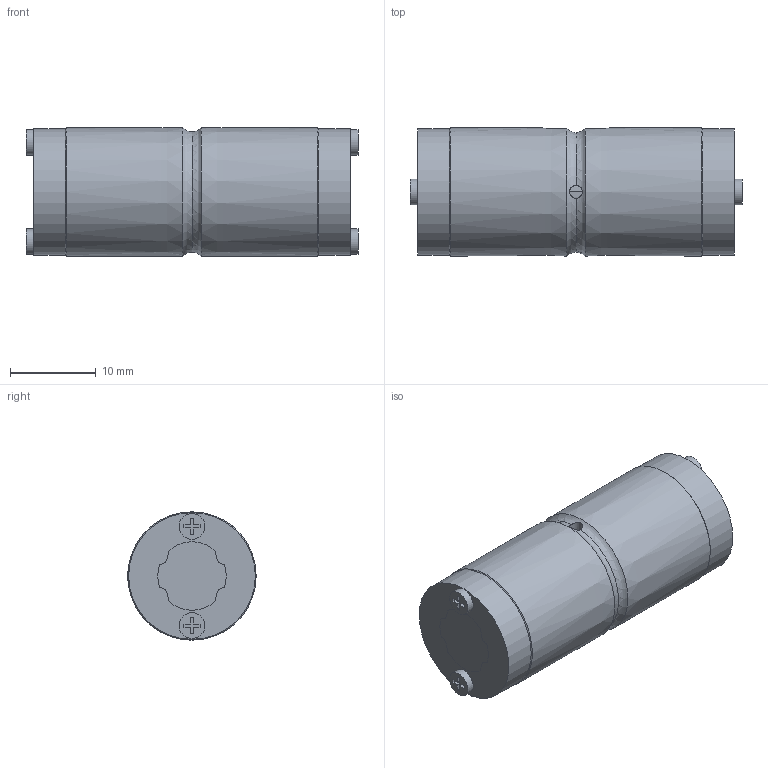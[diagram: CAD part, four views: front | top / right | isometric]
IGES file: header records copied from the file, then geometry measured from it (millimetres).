
Start section: Data from Parasolid IGES Translator 26.0.171, Copyright(c) 2006 Siemens PLM Software. All Rights Reserved.
Global section: file name: LT8XL+37L(00).igs; native system: By Siemens PLM Incorporated; preprocessor: XPlus GENERIC/IGES 26.0.171; author: Noname; organization: Noname; date: 20240528.070726; units: millimetre
Bounding box: 38.8 x 15 x 15 mm (x, y, z)
Surface area: 4086.6 mm2 (no closed solid volume)
Topology: 0 solids, 0 shells, 123 faces, 672 edges, 658 vertices
Faces by surface type: extrusion 71, revolution 52
